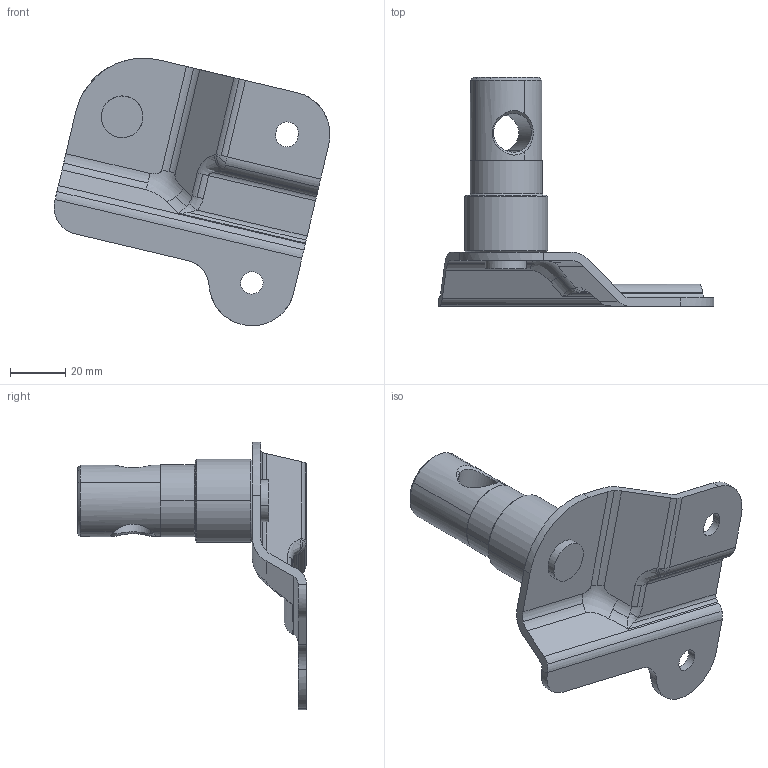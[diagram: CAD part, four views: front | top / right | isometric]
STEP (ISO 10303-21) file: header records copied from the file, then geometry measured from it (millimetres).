
FILE_DESCRIPTION(('CATIA V5 STEP Exchange'),'2;1');
FILE_NAME('C:\Users\Administrator\Desktop\SHT0014366.stp','2022-03-17T03:08:58+00:00',('none'),('none'),'CATIA Version 5 Release 20 GA (IN-10)','CATIA V5 STEP AP203','none');
FILE_SCHEMA(('CONFIG_CONTROL_DESIGN'));
Length unit declared in the file: millimetre
Products named in the file (1): SHT0014179
Bounding box: 99.47 x 82.5 x 96.45 mm (x, y, z)
Volume: 54878.4 mm3; surface area: 22889.4 mm2
Topology: 2 solids, 2 shells, 397 faces, 1143 edges, 752 vertices
Faces by surface type: plane 316, cylinder 54, bspline 12, cone 12, sphere 3
Entity records: 16952 total; most frequent: CARTESIAN_POINT 6804, ORIENTED_EDGE 2276, DIRECTION 1783, EDGE_CURVE 1138, VECTOR 985, LINE 985, VERTEX_POINT 749, AXIS2_PLACEMENT_3D 425
